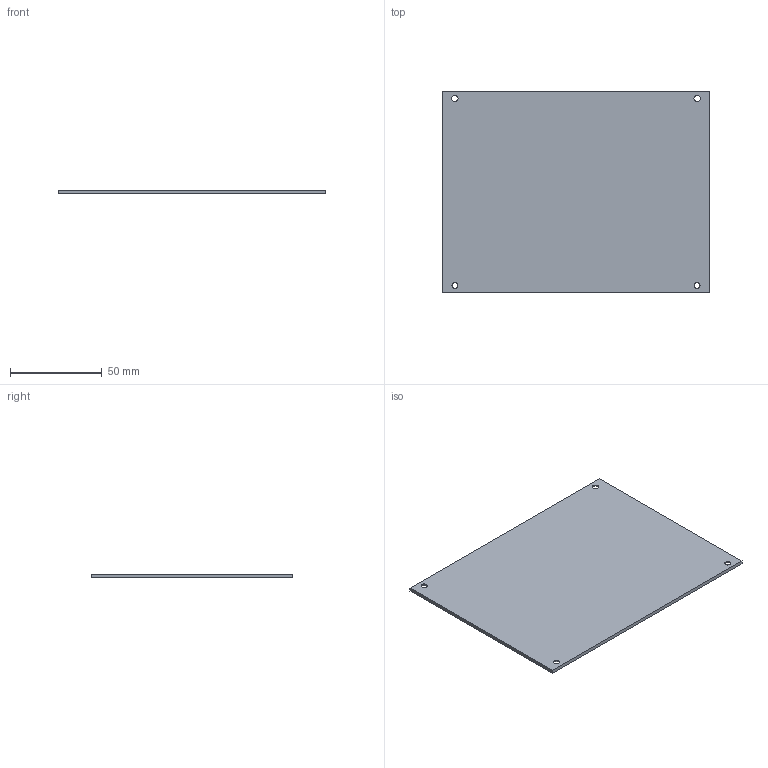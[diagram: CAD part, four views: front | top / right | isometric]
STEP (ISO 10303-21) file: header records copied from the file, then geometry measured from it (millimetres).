
FILE_DESCRIPTION(/* description */ ('STEP AP242 Edition 2','CAx-IF Rec.Pracs.---Representation and Presentation of Product Manufacturing Information (PMI)---4.0---2014-10-13','CAx-IF Rec.Pracs.---3D Tessellated Geometry---0.4---2014-09-14','2;1','CAx-IF Rec.Pracs.---User Defined Attributes---1.5---2016-08-15'),/* implementation_level */ '2;1');
FILE_NAME(/* name */ 'Assy_ForMFG - KD-B-203T_BACK_TOP_COVER_1',/* time_stamp */ '2026-05-15T19:56:26Z',/* author */ (''),/* organization */ (''),/* preprocessor_version */ 'ST-DEVELOPER v20',/* originating_system */ 'ONSHAPE BY PTC INC, 1.215',/* authorisation */ ' ');
FILE_SCHEMA (('AP242_MANAGED_MODEL_BASED_3D_ENGINEERING_MIM_LF { 1 0 10303 442 3 1 4 }'));
Length unit declared in the file: metre
Products named in the file (1): KD-B-203T_BACK_TOP_COVER_1
Bounding box: 146 x 109.9 x 2 mm (x, y, z)
Volume: 31939.6 mm3; surface area: 33101.4 mm2
Topology: 1 solids, 1 shells, 14 faces, 36 edges, 24 vertices
Faces by surface type: plane 6, cone 4, cylinder 4
Full cylindrical faces by diameter (mm): 3.2 x2, 3.4 x2
Entity records: 394 total; most frequent: DIRECTION 66, CARTESIAN_POINT 59, ORIENTED_EDGE 48, EDGE_LOOP 30, FACE_BOUND 30, AXIS2_PLACEMENT_3D 27, EDGE_CURVE 24, VERTEX_POINT 20
